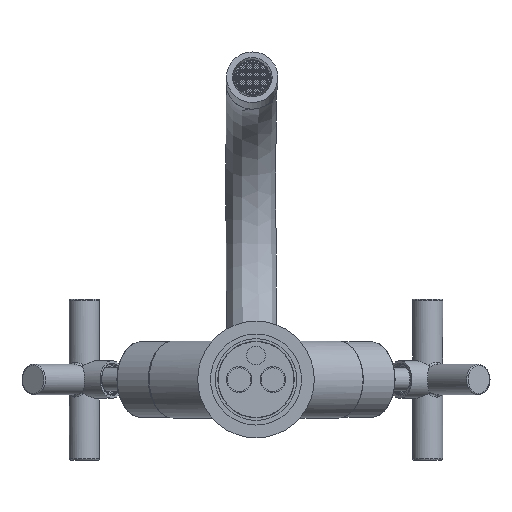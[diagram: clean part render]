
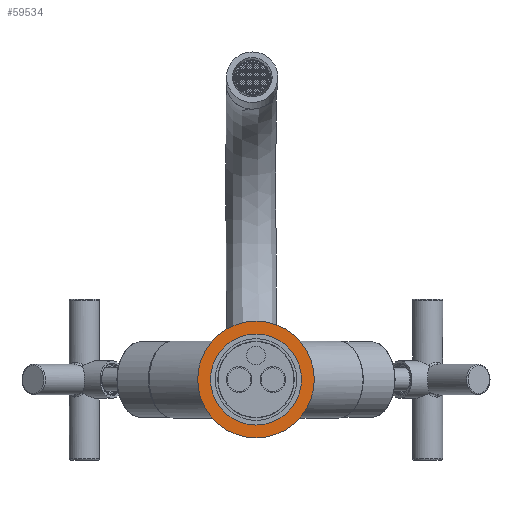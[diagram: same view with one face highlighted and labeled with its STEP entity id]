
A CAD part, front view. The second image highlights one B-rep face of the part: STEP entity #59534.
In plain terms, the highlighted planar face has unit normal (0, -1, 0).
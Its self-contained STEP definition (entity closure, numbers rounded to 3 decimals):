
#382=CIRCLE('',#62791,25.);
#383=CIRCLE('',#62793,19.5);
#5106=FACE_BOUND('',#9849,.T.);
#6672=FACE_OUTER_BOUND('',#9848,.T.);
#9848=EDGE_LOOP('',(#39731));
#9849=EDGE_LOOP('',(#39732));
#23421=VERTEX_POINT('',#97797);
#23422=VERTEX_POINT('',#97801);
#29796=EDGE_CURVE('',#23421,#23421,#382,.F.);
#29798=EDGE_CURVE('',#23422,#23422,#383,.T.);
#39731=ORIENTED_EDGE('',*,*,#29796,.T.);
#39732=ORIENTED_EDGE('',*,*,#29798,.F.);
#56841=PLANE('',#62792);
#59534=ADVANCED_FACE('',(#6672,#5106),#56841,.T.);
#62791=AXIS2_PLACEMENT_3D('',#97798,#70105,#70106);
#62792=AXIS2_PLACEMENT_3D('',#97800,#70108,#70109);
#62793=AXIS2_PLACEMENT_3D('',#97802,#70110,#70111);
#70105=DIRECTION('center_axis',(0.,1.,0.));
#70106=DIRECTION('ref_axis',(0.,0.,
1.));
#70108=DIRECTION('center_axis',(0.,-1.,0.));
#70109=DIRECTION('ref_axis',(0.,0.,
1.));
#70110=DIRECTION('center_axis',(0.,-1.,0.));
#70111=DIRECTION('ref_axis',(0.,0.,
1.));
#97797=CARTESIAN_POINT('',(0.,0.,
-33.5));
#97798=CARTESIAN_POINT('Origin',(0.,0.,
-8.5));
#97800=CARTESIAN_POINT('Origin',(0.,0.,
-8.5));
#97801=CARTESIAN_POINT('',(0.,0.,11.));
#97802=CARTESIAN_POINT('Origin',(0.,0.,
-8.5));
